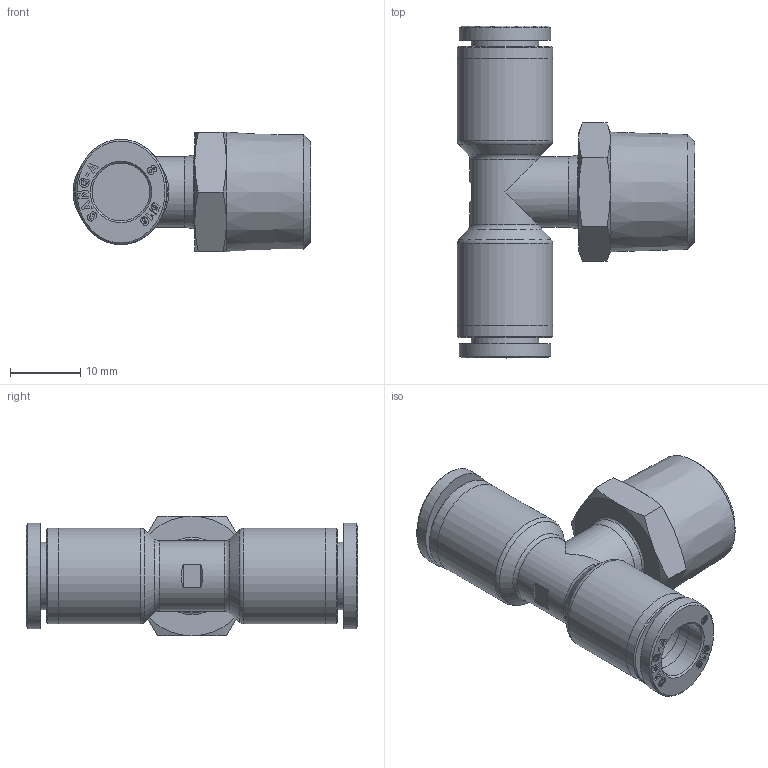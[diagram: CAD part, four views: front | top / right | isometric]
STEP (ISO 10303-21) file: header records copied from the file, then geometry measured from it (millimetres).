
FILE_DESCRIPTION((''),'2;1');
FILE_NAME('C:\Users\user0117\Desktop\김진일\G-FITTING INCH\5-16\G-FITTING INCH (STEP)\GPT 5_16-R03.stp','2020-05-04T16:29:07',('user0117'),(''),'Autodesk Inventor 2013','Autodesk Inventor 2013','');
FILE_SCHEMA(('AUTOMOTIVE_DESIGN { 1 0 10303 214 1 1 1 1 }'));
Length unit declared in the file: millimetre
Products named in the file (6): GPT 5_16-R03; GPL BODY 0803; GPT BODY-08(PLASTIC); G-COLLAR 5-16L; COLLAR G08L; SLEEVE G08
Assembly tree (6 placements, depth 3):
  GPT 5_16-R03
    GPL BODY 0803
    GPT BODY-08(PLASTIC)
    G-COLLAR 5-16L  x2
      COLLAR G08L
      SLEEVE G08
Bounding box: 33.8 x 47.2 x 17 mm (x, y, z)
Volume: 7094.9 mm3; surface area: 6241.3 mm2
Topology: 6 solids, 6 shells, 795 faces, 2208 edges, 1465 vertices
Faces by surface type: plane 695, bspline 40, cylinder 30, cone 25, torus 5
Full cylindrical faces by diameter (mm): 5.5 x1, 6 x1, 8.2 x6, 8.8 x1, 9.6 x2, 10 x1, 11 x1, 13.6 x4
Entity records: 13536 total; most frequent: CARTESIAN_POINT 2818, ORIENTED_EDGE 2242, DIRECTION 2031, EDGE_CURVE 1121, VECTOR 985, LINE 985, VERTEX_POINT 757, AXIS2_PLACEMENT_3D 523
